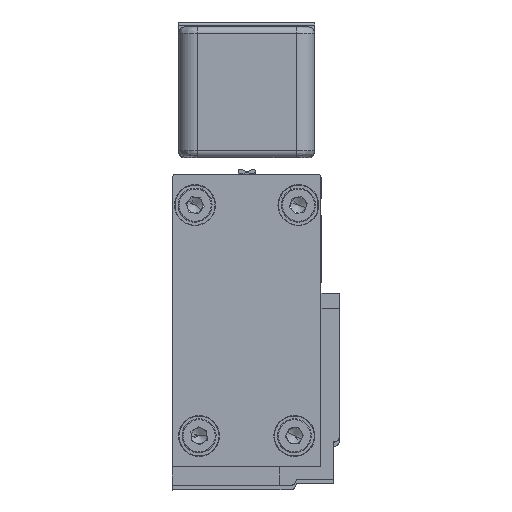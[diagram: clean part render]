
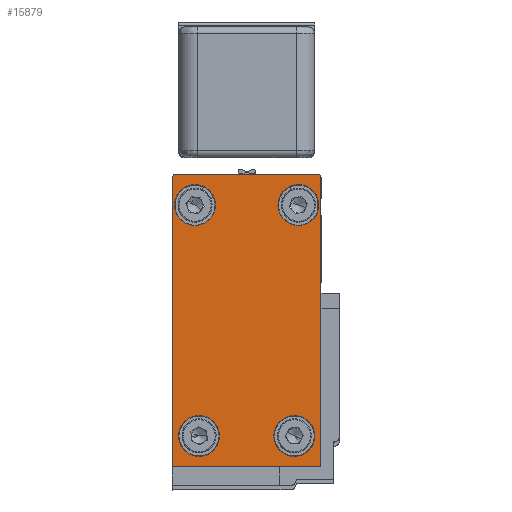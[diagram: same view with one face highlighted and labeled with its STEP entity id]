
A CAD part, top view. The second image highlights one B-rep face of the part: STEP entity #15879.
In plain terms, the highlighted planar face has unit normal (0, 0, 1).
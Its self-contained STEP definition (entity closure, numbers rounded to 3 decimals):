
#567 = AXIS2_PLACEMENT_3D ( 'NONE', #22640, #6889, #25268 ) ;
#589 = DIRECTION ( 'NONE',  ( 0., 0., -1. ) ) ;
#812 = ORIENTED_EDGE ( 'NONE', *, *, #8772, .T. ) ;
#945 = CARTESIAN_POINT ( 'NONE',  ( 5.637, 21.401, 3185. ) ) ;
#1377 = CIRCLE ( 'NONE', #19781, 3.302 ) ;
#1644 = DIRECTION ( 'NONE',  ( 0., 1., 0. ) ) ;
#1734 = CARTESIAN_POINT ( 'NONE',  ( -11.063, 21.401, 3185. ) ) ;
#2041 = CIRCLE ( 'NONE', #25365, 3.302 ) ;
#2053 = DIRECTION ( 'NONE',  ( 0., 0., -1. ) ) ;
#2090 = FACE_BOUND ( 'NONE', #6064, .T. ) ;
#3694 = ORIENTED_EDGE ( 'NONE', *, *, #32349, .T. ) ;
#4145 = DIRECTION ( 'NONE',  ( 0., 0., -1. ) ) ;
#4457 = CIRCLE ( 'NONE', #26801, 3.302 ) ;
#4627 = CARTESIAN_POINT ( 'NONE',  ( 1.676, -15.887, 3185. ) ) ;
#4747 = CARTESIAN_POINT ( 'NONE',  ( -14.365, 21.401, 3185. ) ) ;
#4773 = EDGE_CURVE ( 'NONE', #24668, #6201, #1377, .T. ) ;
#4987 = VERTEX_POINT ( 'NONE', #10680 ) ;
#5735 = VERTEX_POINT ( 'NONE', #28752 ) ;
#6064 = EDGE_LOOP ( 'NONE', ( #8808, #27975 ) ) ;
#6069 = PLANE ( 'NONE',  #12685 ) ;
#6201 = VERTEX_POINT ( 'NONE', #22485 ) ;
#6262 = AXIS2_PLACEMENT_3D ( 'NONE', #33122, #17536, #1644 ) ;
#6648 = AXIS2_PLACEMENT_3D ( 'NONE', #24765, #9069, #27391 ) ;
#6742 = DIRECTION ( 'NONE',  ( 0., 1., 0. ) ) ;
#6802 = DIRECTION ( 'NONE',  ( 0., 0., -1. ) ) ;
#6889 = DIRECTION ( 'NONE',  ( 0., 0., -1. ) ) ;
#7309 = DIRECTION ( 'NONE',  ( -1., 0., 0. ) ) ;
#7324 = LINE ( 'NONE', #25317, #21317 ) ;
#7444 = DIRECTION ( 'NONE',  ( -1., 0., 0. ) ) ;
#7817 = CARTESIAN_POINT ( 'NONE',  ( -18.014, -20.888, 3185. ) ) ;
#8284 = CARTESIAN_POINT ( 'NONE',  ( 5.984, -20.888, 3185. ) ) ;
#8324 = ORIENTED_EDGE ( 'NONE', *, *, #33981, .T. ) ;
#8772 = EDGE_CURVE ( 'NONE', #29389, #14487, #4457, .T. ) ;
#8808 = ORIENTED_EDGE ( 'NONE', *, *, #29457, .T. ) ;
#9069 = DIRECTION ( 'NONE',  ( 0., 0., 1. ) ) ;
#9550 = CARTESIAN_POINT ( 'NONE',  ( 5.485, 26.371, 3185. ) ) ;
#9750 = LINE ( 'NONE', #24753, #15921 ) ;
#10493 = DIRECTION ( 'NONE',  ( -1., 0., 0. ) ) ;
#10680 = CARTESIAN_POINT ( 'NONE',  ( -18.014, 25.871, 3185. ) ) ;
#10940 = AXIS2_PLACEMENT_3D ( 'NONE', #16460, #589, #19119 ) ;
#11215 = VERTEX_POINT ( 'NONE', #27670 ) ;
#12090 = EDGE_CURVE ( 'NONE', #31179, #28108, #31325, .T. ) ;
#12170 = VERTEX_POINT ( 'NONE', #27735 ) ;
#12685 = AXIS2_PLACEMENT_3D ( 'NONE', #7817, #26165, #10493 ) ;
#12844 = ORIENTED_EDGE ( 'NONE', *, *, #30663, .T. ) ;
#12966 = LINE ( 'NONE', #9550, #26852 ) ;
#14433 = EDGE_CURVE ( 'NONE', #18104, #28158, #30649, .T. ) ;
#14487 = VERTEX_POINT ( 'NONE', #1734 ) ;
#14736 = EDGE_CURVE ( 'NONE', #28108, #12170, #9750, .T. ) ;
#14850 = VECTOR ( 'NONE', #16319, 1000. ) ;
#15436 = FACE_OUTER_BOUND ( 'NONE', #33894, .T. ) ;
#15566 = EDGE_LOOP ( 'NONE', ( #812, #21741 ) ) ;
#15717 = DIRECTION ( 'NONE',  ( 0., 0., -1. ) ) ;
#15879 = ADVANCED_FACE ( 'NONE', ( #29267, #2090, #30101, #22372, #15436 ), #6069, .T. ) ;
#15921 = VECTOR ( 'NONE', #27381, 1000. ) ;
#16319 = DIRECTION ( 'NONE',  ( 1., 0., 0. ) ) ;
#16385 = EDGE_CURVE ( 'NONE', #14487, #29389, #2041, .T. ) ;
#16460 = CARTESIAN_POINT ( 'NONE',  ( 2.335, 21.401, 3185. ) ) ;
#16801 = EDGE_LOOP ( 'NONE', ( #16872, #19674 ) ) ;
#16872 = ORIENTED_EDGE ( 'NONE', *, *, #28048, .T. ) ;
#17391 = EDGE_CURVE ( 'NONE', #5735, #31179, #28681, .T. ) ;
#17424 = CIRCLE ( 'NONE', #19457, 3.302 ) ;
#17536 = DIRECTION ( 'NONE',  ( 0., 0., -1. ) ) ;
#17675 = CARTESIAN_POINT ( 'NONE',  ( 5.984, 7.11, 3185. ) ) ;
#17932 = CARTESIAN_POINT ( 'NONE',  ( -13.714, -15.887, 3185. ) ) ;
#18104 = VERTEX_POINT ( 'NONE', #945 ) ;
#18663 = VERTEX_POINT ( 'NONE', #25172 ) ;
#19119 = DIRECTION ( 'NONE',  ( -1., 0., 0. ) ) ;
#19347 = CIRCLE ( 'NONE', #26008, 3.302 ) ;
#19457 = AXIS2_PLACEMENT_3D ( 'NONE', #22558, #6802, #25180 ) ;
#19674 = ORIENTED_EDGE ( 'NONE', *, *, #4773, .T. ) ;
#19781 = AXIS2_PLACEMENT_3D ( 'NONE', #4627, #23061, #7309 ) ;
#19987 = CARTESIAN_POINT ( 'NONE',  ( 1.676, -15.887, 3185. ) ) ;
#20467 = CIRCLE ( 'NONE', #10940, 3.302 ) ;
#20579 = DIRECTION ( 'NONE',  ( -1., 0., 0. ) ) ;
#20905 = EDGE_LOOP ( 'NONE', ( #21965, #12844 ) ) ;
#21228 = ORIENTED_EDGE ( 'NONE', *, *, #17391, .T. ) ;
#21317 = VECTOR ( 'NONE', #30452, 1000. ) ;
#21741 = ORIENTED_EDGE ( 'NONE', *, *, #16385, .T. ) ;
#21965 = ORIENTED_EDGE ( 'NONE', *, *, #31565, .T. ) ;
#22086 = AXIS2_PLACEMENT_3D ( 'NONE', #17932, #2053, #20579 ) ;
#22372 = FACE_BOUND ( 'NONE', #20905, .T. ) ;
#22485 = CARTESIAN_POINT ( 'NONE',  ( -1.626, -15.887, 3185. ) ) ;
#22558 = CARTESIAN_POINT ( 'NONE',  ( -13.714, -15.887, 3185. ) ) ;
#22599 = DIRECTION ( 'NONE',  ( -1., 0., 0. ) ) ;
#22610 = ORIENTED_EDGE ( 'NONE', *, *, #27913, .T. ) ;
#22640 = CARTESIAN_POINT ( 'NONE',  ( 2.335, 21.401, 3185. ) ) ;
#23061 = DIRECTION ( 'NONE',  ( 0., 0., -1. ) ) ;
#23184 = DIRECTION ( 'NONE',  ( 0., 0., -1. ) ) ;
#23448 = ORIENTED_EDGE ( 'NONE', *, *, #33176, .F. ) ;
#24108 = CARTESIAN_POINT ( 'NONE',  ( -18.014, -20.888, 3185. ) ) ;
#24244 = CIRCLE ( 'NONE', #6648, 0.5 ) ;
#24668 = VERTEX_POINT ( 'NONE', #28622 ) ;
#24753 = CARTESIAN_POINT ( 'NONE',  ( 5.984, 7.11, 3185. ) ) ;
#24765 = CARTESIAN_POINT ( 'NONE',  ( 5.485, 25.871, 3185. ) ) ;
#25172 = CARTESIAN_POINT ( 'NONE',  ( -10.412, -15.887, 3185. ) ) ;
#25180 = DIRECTION ( 'NONE',  ( -1., 0., 0. ) ) ;
#25236 = VECTOR ( 'NONE', #6742, 1000. ) ;
#25268 = DIRECTION ( 'NONE',  ( -1., 0., 0. ) ) ;
#25317 = CARTESIAN_POINT ( 'NONE',  ( -18.014, 25.871, 3185. ) ) ;
#25365 = AXIS2_PLACEMENT_3D ( 'NONE', #4747, #23184, #7444 ) ;
#26008 = AXIS2_PLACEMENT_3D ( 'NONE', #19987, #4145, #22599 ) ;
#26165 = DIRECTION ( 'NONE',  ( 0., 0., 1. ) ) ;
#26166 = ORIENTED_EDGE ( 'NONE', *, *, #14736, .T. ) ;
#26801 = AXIS2_PLACEMENT_3D ( 'NONE', #31334, #15717, #33906 ) ;
#26852 = VECTOR ( 'NONE', #27857, 1000. ) ;
#27170 = CARTESIAN_POINT ( 'NONE',  ( -17.017, -15.887, 3185. ) ) ;
#27381 = DIRECTION ( 'NONE',  ( 0., 1., 0. ) ) ;
#27391 = DIRECTION ( 'NONE',  ( 0., 1., 0. ) ) ;
#27535 = CIRCLE ( 'NONE', #22086, 3.302 ) ;
#27670 = CARTESIAN_POINT ( 'NONE',  ( -17.514, 26.371, 3185. ) ) ;
#27735 = CARTESIAN_POINT ( 'NONE',  ( 5.984, 25.871, 3185. ) ) ;
#27857 = DIRECTION ( 'NONE',  ( -1., 0., 0. ) ) ;
#27889 = VERTEX_POINT ( 'NONE', #27170 ) ;
#27913 = EDGE_CURVE ( 'NONE', #12170, #29251, #24244, .T. ) ;
#27975 = ORIENTED_EDGE ( 'NONE', *, *, #14433, .T. ) ;
#28048 = EDGE_CURVE ( 'NONE', #6201, #24668, #19347, .T. ) ;
#28108 = VERTEX_POINT ( 'NONE', #17675 ) ;
#28150 = CIRCLE ( 'NONE', #6262, 0.5 ) ;
#28158 = VERTEX_POINT ( 'NONE', #30787 ) ;
#28622 = CARTESIAN_POINT ( 'NONE',  ( 4.978, -15.887, 3185. ) ) ;
#28681 = LINE ( 'NONE', #24108, #14850 ) ;
#28752 = CARTESIAN_POINT ( 'NONE',  ( -18.014, -20.888, 3185. ) ) ;
#29251 = VERTEX_POINT ( 'NONE', #33091 ) ;
#29267 = FACE_BOUND ( 'NONE', #15566, .T. ) ;
#29389 = VERTEX_POINT ( 'NONE', #31309 ) ;
#29457 = EDGE_CURVE ( 'NONE', #28158, #18104, #20467, .T. ) ;
#30101 = FACE_BOUND ( 'NONE', #16801, .T. ) ;
#30452 = DIRECTION ( 'NONE',  ( 0., -1., 0. ) ) ;
#30512 = ORIENTED_EDGE ( 'NONE', *, *, #12090, .T. ) ;
#30649 = CIRCLE ( 'NONE', #567, 3.302 ) ;
#30663 = EDGE_CURVE ( 'NONE', #18663, #27889, #17424, .T. ) ;
#30787 = CARTESIAN_POINT ( 'NONE',  ( -0.967, 21.401, 3185. ) ) ;
#31179 = VERTEX_POINT ( 'NONE', #8284 ) ;
#31309 = CARTESIAN_POINT ( 'NONE',  ( -17.667, 21.401, 3185. ) ) ;
#31325 = LINE ( 'NONE', #32753, #25236 ) ;
#31334 = CARTESIAN_POINT ( 'NONE',  ( -14.365, 21.401, 3185. ) ) ;
#31565 = EDGE_CURVE ( 'NONE', #27889, #18663, #27535, .T. ) ;
#32349 = EDGE_CURVE ( 'NONE', #4987, #5735, #7324, .T. ) ;
#32753 = CARTESIAN_POINT ( 'NONE',  ( 5.984, -20.888, 3185. ) ) ;
#33091 = CARTESIAN_POINT ( 'NONE',  ( 5.485, 26.371, 3185. ) ) ;
#33122 = CARTESIAN_POINT ( 'NONE',  ( -17.514, 25.871, 3185. ) ) ;
#33176 = EDGE_CURVE ( 'NONE', #4987, #11215, #28150, .T. ) ;
#33894 = EDGE_LOOP ( 'NONE', ( #30512, #26166, #22610, #8324, #23448, #3694, #21228 ) ) ;
#33906 = DIRECTION ( 'NONE',  ( -1., 0., 0. ) ) ;
#33981 = EDGE_CURVE ( 'NONE', #29251, #11215, #12966, .T. ) ;
